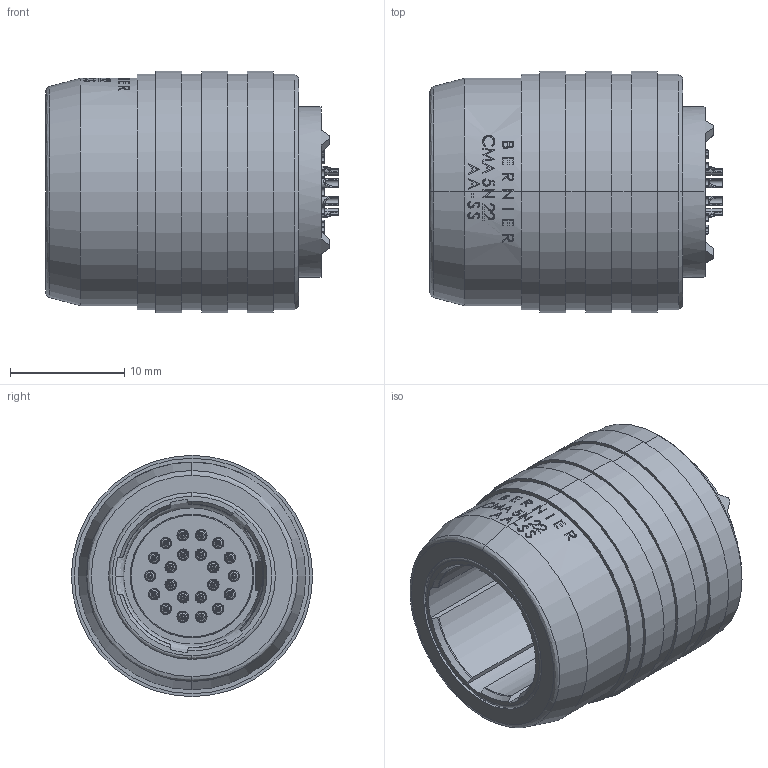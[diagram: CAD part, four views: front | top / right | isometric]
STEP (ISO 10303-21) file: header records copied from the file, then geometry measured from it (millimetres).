
FILE_DESCRIPTION (( 'STEP AP214' ), '1' );
FILE_NAME ('CMA5N22.STEP', '2023-11-13T08:39:37', ( '' ), ( '' ), 'SwSTEP 2.0', 'SolidWorks 2021', '' );
FILE_SCHEMA (( 'AUTOMOTIVE_DESIGN' ));
Length unit declared in the file: millimetre
Products named in the file (1): CMA5N22
Bounding box: 25.54 x 21.08 x 21.08 mm (x, y, z)
Volume: 5209.4 mm3; surface area: 4460 mm2
Topology: 1 solids, 1 shells, 1065 faces, 2492 edges, 1542 vertices
Faces by surface type: bspline 760, plane 305
Entity records: 48915 total; most frequent: CARTESIAN_POINT 20651, ORIENTED_EDGE 4896, DIRECTION 3712, EDGE_CURVE 2448, VERTEX_POINT 1542, AXIS2_PLACEMENT_3D 1416, EDGE_LOOP 1222, CIRCLE 1110
